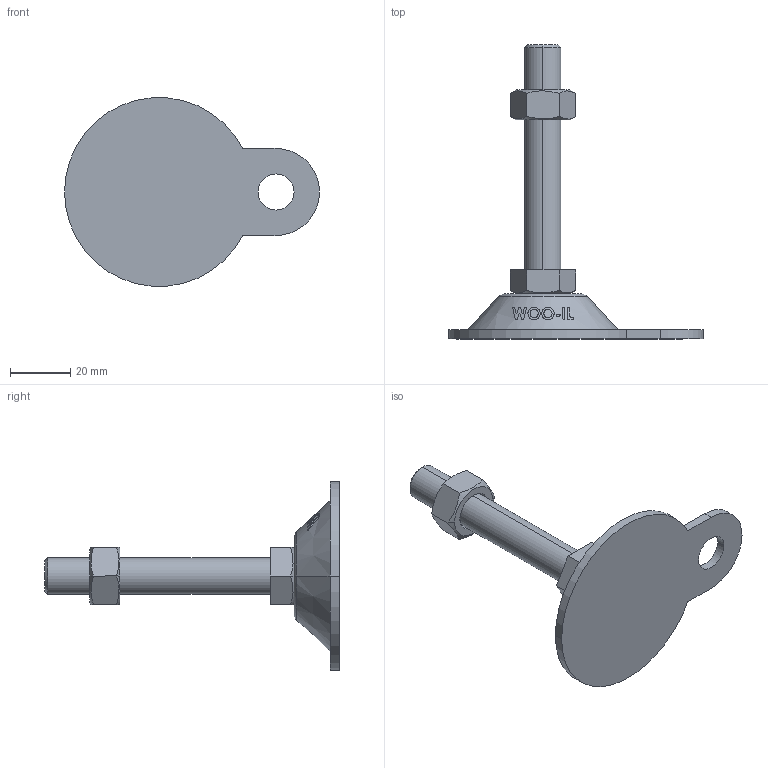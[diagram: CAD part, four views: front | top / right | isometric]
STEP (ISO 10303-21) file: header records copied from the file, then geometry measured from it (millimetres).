
FILE_DESCRIPTION (( 'STEP AP214' ), '1' );
FILE_NAME ('ABL63-M12-75.step', '2021-02-05T04:19:33', ( '' ), ( '' ), 'SwSTEP 2.0', 'SolidWorks 2019', '' );
FILE_SCHEMA (( 'AUTOMOTIVE_DESIGN' ));
Length unit declared in the file: millimetre
Products named in the file (2): ABL63-M12-75
Bounding box: 85 x 98 x 62.83 mm (x, y, z)
Volume: 38306.4 mm3; surface area: 13486.4 mm2
Topology: 2 solids, 2 shells, 128 faces, 325 edges, 212 vertices
Faces by surface type: plane 48, cylinder 38, cone 22, bspline 18, torus 2
Entity records: 5459 total; most frequent: CARTESIAN_POINT 2573, ORIENTED_EDGE 650, DIRECTION 473, EDGE_CURVE 325, VERTEX_POINT 212, AXIS2_PLACEMENT_3D 176, EDGE_LOOP 143, B_SPLINE_CURVE_WITH_KNOTS 140
